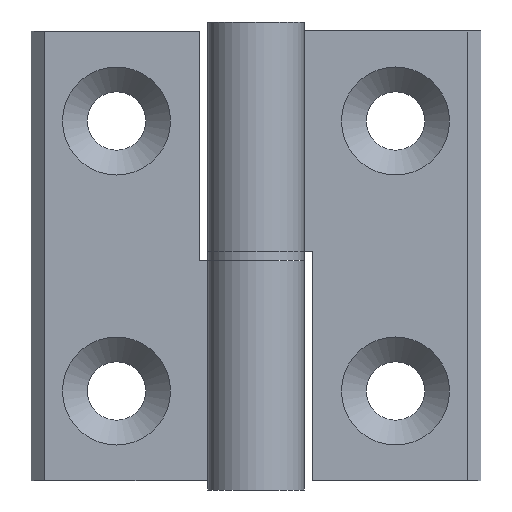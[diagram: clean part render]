
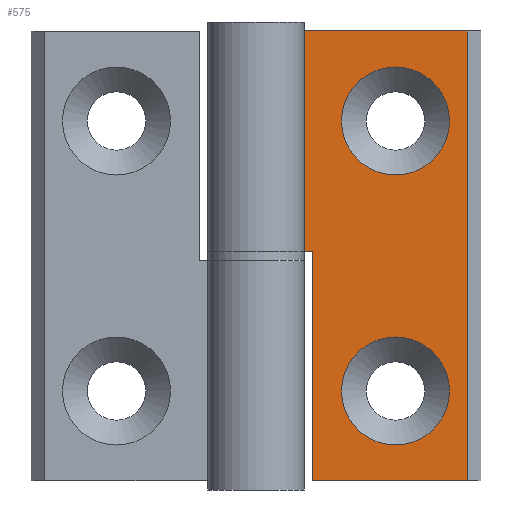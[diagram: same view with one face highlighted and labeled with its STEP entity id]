
A CAD part, front view. The second image highlights one B-rep face of the part: STEP entity #575.
In plain terms, the highlighted planar face has unit normal (0, -1, 0).
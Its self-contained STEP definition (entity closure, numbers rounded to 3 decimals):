
#183=CARTESIAN_POINT('',(6.791,-0.051,10.0));
#184=VERTEX_POINT('',#183);
#185=CARTESIAN_POINT('',(0.791,-0.051,10.0));
#186=DIRECTION('',(0.0,1.0,0.0));
#187=DIRECTION('',(1.0,0.0,0.0));
#188=AXIS2_PLACEMENT_3D('',#185,#186,#187);
#189=CIRCLE('',#188,6.);
#190=EDGE_CURVE('',#184,#184,#189,.T.);
#273=CARTESIAN_POINT('',(6.791,-0.051,40.0));
#274=VERTEX_POINT('',#273);
#275=CARTESIAN_POINT('',(0.791,-0.051,40.0));
#276=DIRECTION('',(0.0,1.0,0.0));
#277=DIRECTION('',(1.0,0.0,0.0));
#278=AXIS2_PLACEMENT_3D('',#275,#276,#277);
#279=CIRCLE('',#278,6.);
#280=EDGE_CURVE('',#274,#274,#279,.T.);
#344=CARTESIAN_POINT('',(-9.532,-0.051,25.5));
#345=VERTEX_POINT('',#344);
#361=CARTESIAN_POINT('',(-8.459,-0.051,25.5));
#362=VERTEX_POINT('',#361);
#369=CARTESIAN_POINT('',(-9.532,-0.051,25.5));
#370=DIRECTION('',(1.0,0.0,0.0));
#371=VECTOR('',#370,1.073);
#372=LINE('',#369,#371);
#373=EDGE_CURVE('',#345,#362,#372,.T.);
#394=CARTESIAN_POINT('',(-8.459,-0.051,0.0));
#395=VERTEX_POINT('',#394);
#396=CARTESIAN_POINT('',(-8.459,-0.051,25.5));
#397=DIRECTION('',(0.0,0.0,-1.0));
#398=VECTOR('',#397,25.5);
#399=LINE('',#396,#398);
#400=EDGE_CURVE('',#362,#395,#399,.T.);
#475=CARTESIAN_POINT('',(-9.532,-0.051,50.0));
#476=VERTEX_POINT('',#475);
#477=CARTESIAN_POINT('',(-9.532,-0.051,25.5));
#478=DIRECTION('',(0.0,0.0,1.0));
#479=VECTOR('',#478,24.5);
#480=LINE('',#477,#479);
#481=EDGE_CURVE('',#345,#476,#480,.T.);
#513=CARTESIAN_POINT('',(8.791,-0.051,50.0));
#514=VERTEX_POINT('',#513);
#521=CARTESIAN_POINT('',(8.791,-0.051,0.0));
#522=VERTEX_POINT('',#521);
#523=CARTESIAN_POINT('',(8.791,-0.051,0.0));
#524=DIRECTION('',(0.0,0.0,1.0));
#525=VECTOR('',#524,50.0);
#526=LINE('',#523,#525);
#527=EDGE_CURVE('',#522,#514,#526,.T.);
#546=CARTESIAN_POINT('',(8.791,-0.051,0.0));
#547=DIRECTION('',(0.0,-1.0,0.0));
#548=DIRECTION('',(0.0,0.0,-1.0));
#549=AXIS2_PLACEMENT_3D('',#546,#547,#548);
#550=PLANE('',#549);
#551=ORIENTED_EDGE('',*,*,#400,.T.);
#552=CARTESIAN_POINT('',(8.791,-0.051,0.0));
#553=DIRECTION('',(-1.0,0.0,0.0));
#554=VECTOR('',#553,17.25);
#555=LINE('',#552,#554);
#556=EDGE_CURVE('',#522,#395,#555,.T.);
#557=ORIENTED_EDGE('',*,*,#556,.F.);
#558=ORIENTED_EDGE('',*,*,#527,.T.);
#559=CARTESIAN_POINT('',(8.791,-0.051,50.0));
#560=DIRECTION('',(-1.0,0.0,0.0));
#561=VECTOR('',#560,18.323);
#562=LINE('',#559,#561);
#563=EDGE_CURVE('',#514,#476,#562,.T.);
#564=ORIENTED_EDGE('',*,*,#563,.T.);
#565=ORIENTED_EDGE('',*,*,#481,.F.);
#566=ORIENTED_EDGE('',*,*,#373,.T.);
#567=EDGE_LOOP('',(#551,#557,#558,#564,#565,#566));
#568=FACE_OUTER_BOUND('',#567,.T.);
#569=ORIENTED_EDGE('',*,*,#190,.T.);
#570=EDGE_LOOP('',(#569));
#571=FACE_BOUND('',#570,.T.);
#572=ORIENTED_EDGE('',*,*,#280,.T.);
#573=EDGE_LOOP('',(#572));
#574=FACE_BOUND('',#573,.T.);
#575=ADVANCED_FACE('',(#568,#571,#574),#550,.T.);
